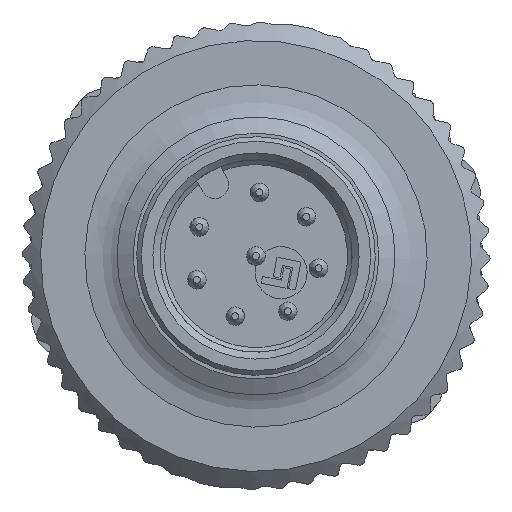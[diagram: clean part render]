
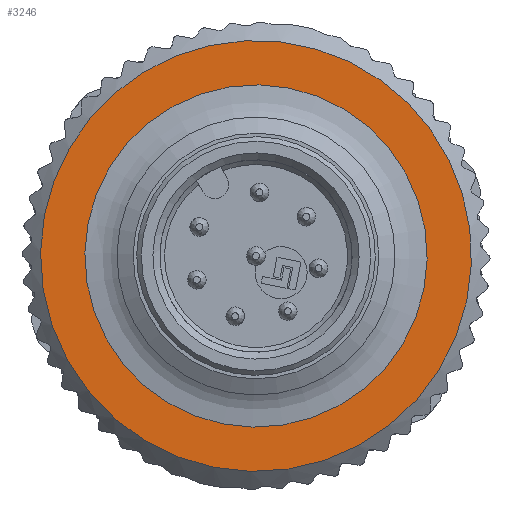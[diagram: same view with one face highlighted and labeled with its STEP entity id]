
A CAD part, left-side view. The second image highlights one B-rep face of the part: STEP entity #3246.
In plain terms, the highlighted planar face has unit normal (-1, 0, 0).
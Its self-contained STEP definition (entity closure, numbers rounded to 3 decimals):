
#3246=ADVANCED_FACE('',(#4238,#4239),#3863,.T.);
#3863=PLANE('',#11992);
#4238=FACE_BOUND('',#4363,.T.);
#4239=FACE_BOUND('',#4364,.T.);
#4363=EDGE_LOOP('',(#5497));
#4364=EDGE_LOOP('',(#5498));
#5497=ORIENTED_EDGE('',*,*,#10161,.T.);
#5498=ORIENTED_EDGE('',*,*,#9927,.T.);
#8745=VERTEX_POINT('',#18166);
#8961=VERTEX_POINT('',#18667);
#9927=EDGE_CURVE('',#8745,#8745,#11466,.T.);
#10161=EDGE_CURVE('',#8961,#8961,#11572,.T.);
#11466=CIRCLE('',#11867,9.3);
#11572=CIRCLE('',#11991,7.387);
#11867=AXIS2_PLACEMENT_3D('',#18165,#12921,#12922);
#11991=AXIS2_PLACEMENT_3D('',#18666,#13286,#13287);
#11992=AXIS2_PLACEMENT_3D('',#18668,#13288,#13289);
#12921=DIRECTION('',(-1.,0.,0.));
#12922=DIRECTION('',(0.,0.982,0.191));
#13286=DIRECTION('',(1.,0.,0.));
#13287=DIRECTION('',(0.,0.982,0.191));
#13288=DIRECTION('',(-1.,0.,0.));
#13289=DIRECTION('',(0.,0.982,0.191));
#18165=CARTESIAN_POINT('',(-8.3,-0.006,-0.013));
#18166=CARTESIAN_POINT('',(-8.3,9.123,1.761));
#18666=CARTESIAN_POINT('',(-8.3,-0.006,-0.013));
#18667=CARTESIAN_POINT('',(-8.3,7.245,1.396));
#18668=CARTESIAN_POINT('',(-8.3,-0.006,-0.013));
